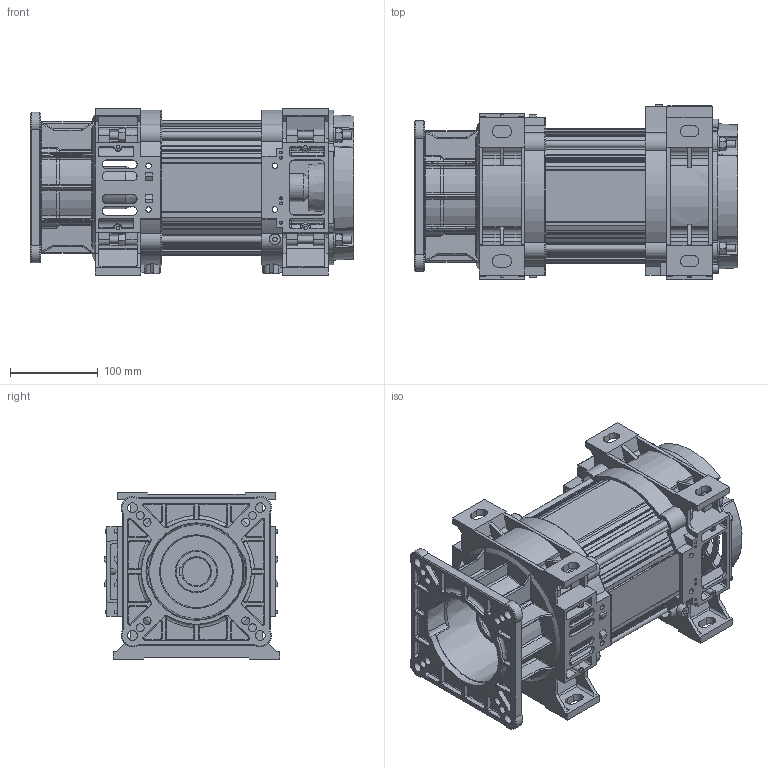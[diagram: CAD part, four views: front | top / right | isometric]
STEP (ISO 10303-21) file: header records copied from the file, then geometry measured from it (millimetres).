
FILE_DESCRIPTION(/* description */ ('Motore Tipo S4X Fl.111.1 F32-H135 NO Volano NO Piedi'),/* implementation_level */ '2;1');
FILE_NAME(/* name */ 'Y:\ServerTecnico\Mockup Motori x Sito Elmo\Mockup Tipo S4X Size 1 FL111 F32-H135 NO Volano.stp',/* time_stamp */ '2019-05-27T11:37:25+02:00',/* author */ ('aparmini'),/* organization */ (''),/* preprocessor_version */ 'ST-DEVELOPER v16.5',/* originating_system */ 'Autodesk Inventor 2017',/* authorisation */ '');
FILE_SCHEMA (('AUTOMOTIVE_DESIGN { 1 0 10303 214 3 1 1 }'));
Products named in the file (8): Mockup Tipo S4X Size 1 FL111 F32-H135 NO Volano; Mockup Statore Size 1 - F32-H135 NO Volano; TGS10; Mockup CA1SD111N; Mockup CP1XD040N; TI08ML275; UNI 5587 - M8; DIN 125-2 - B 8,4
Assembly tree (20 placements, depth 2):
  Mockup Tipo S4X Size 1 FL111 F32-H135 NO Volano
    Mockup Statore Size 1 - F32-H135 NO Volano
    TGS10
    Mockup CA1SD111N
    Mockup CP1XD040N
    UNI 5587 - M8  x8
    TI08ML275  x4
    DIN 125-2 - B 8,4  x4
Bounding box: 369 x 200 x 190 mm (x, y, z)
Volume: 4241500.7 mm3; surface area: 756274.5 mm2
Topology: 20 solids, 20 shells, 2588 faces, 7036 edges, 4479 vertices
Faces by surface type: plane 1009, cylinder 966, bspline 251, cone 246, torus 100, sphere 16
Full cylindrical faces by diameter (mm): 3.2 x5, 4 x8, 4.917 x2, 5 x4, 6.2 x8, 6.647 x8, 8 x4, 8.4 x4, 9 x8, 10 x8, 11 x4, 12 x4, 16 x4, 17 x1, 21 x1, 32 x2, 38 x1, 48 x1, 82 x1
Entity records: 82949 total; most frequent: CARTESIAN_POINT 21117, DIRECTION 13108, ORIENTED_EDGE 13014, EDGE_CURVE 6495, AXIS2_PLACEMENT_3D 4905, VERTEX_POINT 4230, LINE 3298, VECTOR 3298
